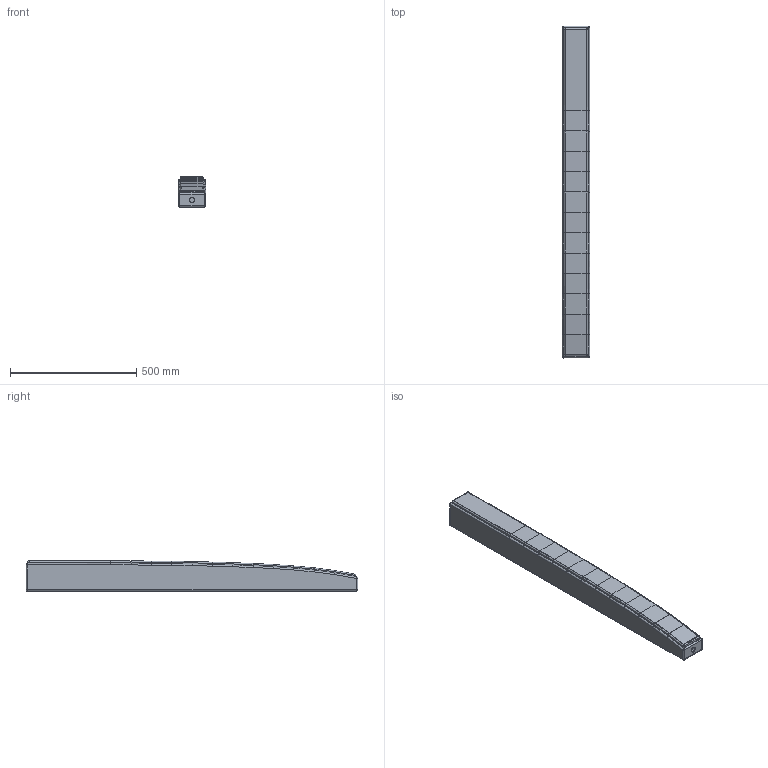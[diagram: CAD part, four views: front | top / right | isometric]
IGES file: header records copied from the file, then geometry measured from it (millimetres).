
Start section: SolidWorks IGES file using analytic representation for surfaces
Global section: file name: C:\Dokumente und Einstellungen\PC_Fabian\Desktop\SW-Konstruktionen Michl2010\L-Serie\L16j\Internet\SEEBURG_L16j.IGS; native system: SolidWorks 2009; preprocessor: SolidWorks 2009; author: PC_Fabian; date: 120926.083758; units: millimetre
Bounding box: 108 x 1313.81 x 120 mm (x, y, z)
Surface area: 1246123.9 mm2 (no closed solid volume)
Topology: 0 solids, 0 shells, 241 faces, 1966 edges, 1960 vertices
Faces by surface type: bspline 125, revolution 116
